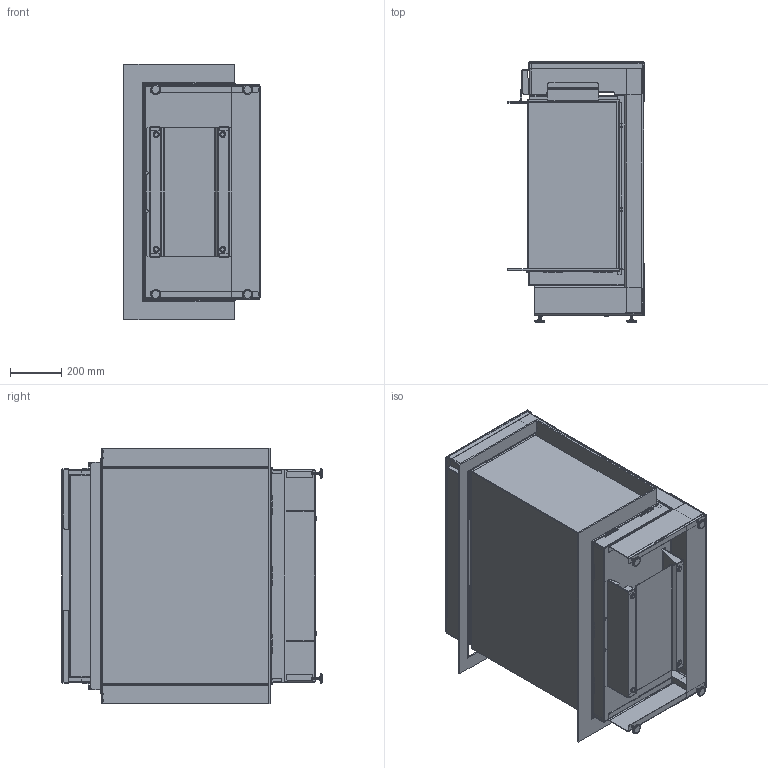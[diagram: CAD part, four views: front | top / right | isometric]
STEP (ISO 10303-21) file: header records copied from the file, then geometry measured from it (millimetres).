
FILE_DESCRIPTION (( 'STEP AP214' ), '1' );
FILE_NAME ('Faber e-MatriX Mood 800x650 III_defeature.STEP', '2022-05-31T10:06:58', ( '' ), ( '' ), 'SwSTEP 2.0', 'SolidWorks 2021', '' );
FILE_SCHEMA (( 'AUTOMOTIVE_DESIGN' ));
Length unit declared in the file: millimetre
Products named in the file (1): Faber e-MatriX Mood 800x650 III_defeature
Bounding box: 533.5 x 1019 x 1001 mm (x, y, z)
Volume: 13048301.4 mm3; surface area: 10930910.8 mm2
Topology: 29 solids, 29 shells, 1683 faces, 4147 edges, 2508 vertices
Faces by surface type: plane 986, cylinder 583, bspline 66, cone 40, torus 8
Entity records: 65071 total; most frequent: CARTESIAN_POINT 25921, ORIENTED_EDGE 8294, DIRECTION 7821, EDGE_CURVE 4147, LINE 2717, VECTOR 2717, AXIS2_PLACEMENT_3D 2552, VERTEX_POINT 2508
